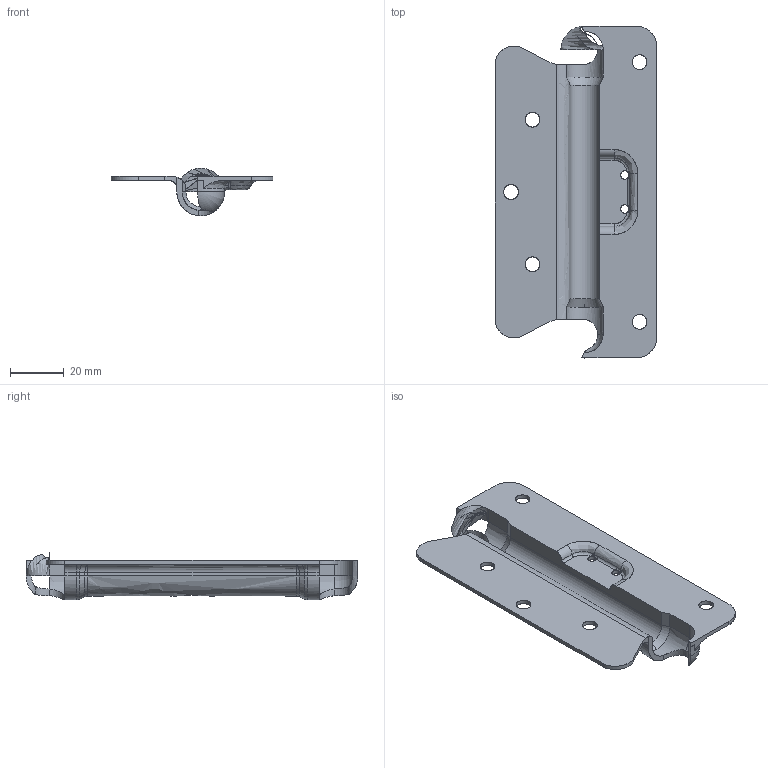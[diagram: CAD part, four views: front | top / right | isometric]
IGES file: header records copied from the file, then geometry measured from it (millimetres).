
Start section: SolidWorks IGES FILE using analytic representation for surfaces
Global section: file name: C:\Documents and Settings\lecoutey\Bureau\PR 302\302.010.00.IGS; native system: SolidWorks 2004 by SolidWorks Corporation; preprocessor: Version 5.3; author: lecoutey; date: 050408.142248; units: millimetre
Bounding box: 60.5 x 124 x 17.78 mm (x, y, z)
Surface area: 17418.1 mm2 (no closed solid volume)
Topology: 0 solids, 0 shells, 150 faces, 1750 edges, 1738 vertices
Faces by surface type: revolution 81, bspline 69
